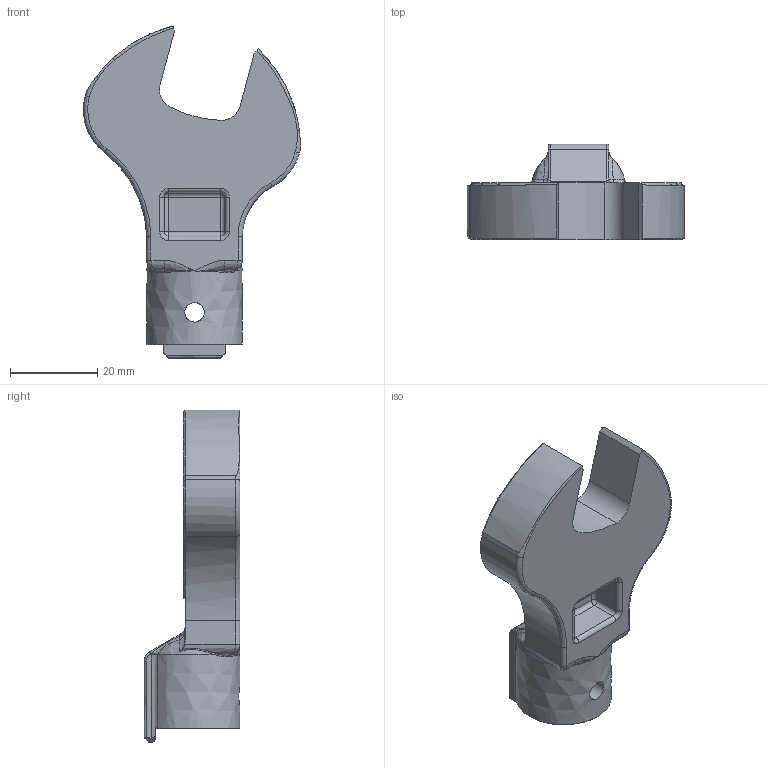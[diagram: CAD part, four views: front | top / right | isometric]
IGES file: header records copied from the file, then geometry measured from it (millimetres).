
Global section: file name: SH15DX19; native system: Autodesk Inventor 2016; preprocessor: unknown; author: Q600; date: 20151029.184331; units: millimetre
Bounding box: 49.89 x 22 x 76.3 mm (x, y, z)
Volume: 22851.5 mm3; surface area: 8434.9 mm2
Topology: 1 solids, 1 shells, 135 faces, 355 edges, 216 vertices
Faces by surface type: bspline 135
